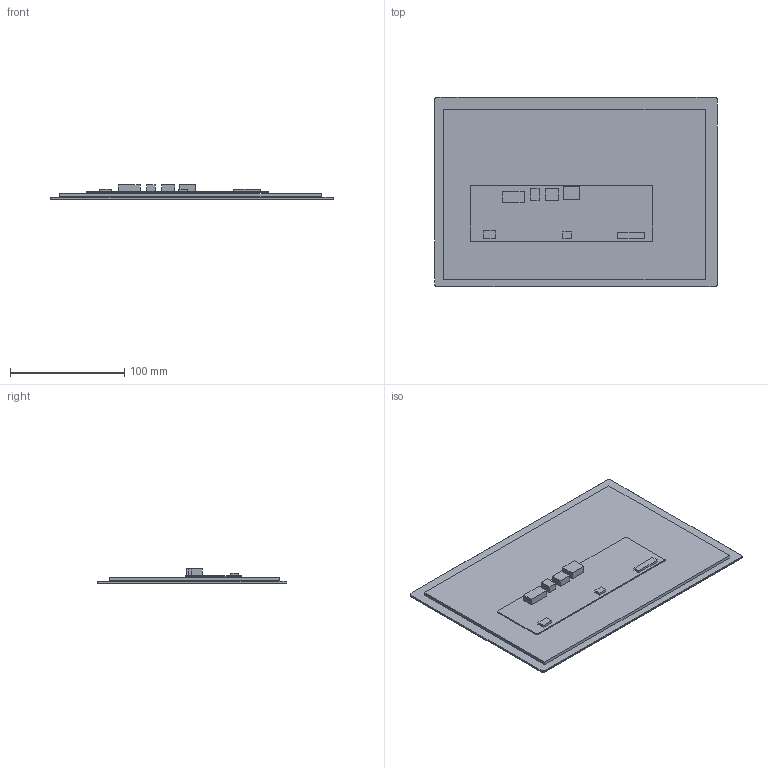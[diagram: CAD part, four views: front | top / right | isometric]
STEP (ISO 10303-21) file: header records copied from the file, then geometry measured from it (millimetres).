
FILE_DESCRIPTION(/* description */ (''),/* implementation_level */ '2;1');
FILE_NAME(/* name */ 'SDWb101YY37BCG.stp',/* time_stamp */ '2024-11-07T10:16:35+08:00',/* author */ (''),/* organization */ (''),/* preprocessor_version */ 'ST-DEVELOPER v16',/* originating_system */ 'SIEMENS PLM Software NX 10.0',/* authorisation */ '');
FILE_SCHEMA (('AP203_CONFIGURATION_CONTROLLED_3D_DESIGN_OF_MECHANICAL_PARTS_AND_ASSEMBLIES_MIM_LF { 1 0 10303 403 2 1 2}'));
Length unit declared in the file: millimetre
Products named in the file (1): SDWb101YY37BCG
Bounding box: 247 x 165.6 x 13.56 mm (x, y, z)
Volume: 171629.2 mm3; surface area: 316767.4 mm2
Topology: 13 solids, 13 shells, 93 faces, 201 edges, 134 vertices
Faces by surface type: plane 87, cylinder 4, extrusion 2
Entity records: 3453 total; most frequent: CARTESIAN_POINT 787, ORIENTED_EDGE 398, DIRECTION 317, EDGE_CURVE 199, VERTEX_POINT 134, VECTOR 117, LINE 115, PRESENTATION_STYLE_ASSIGNMENT 100
